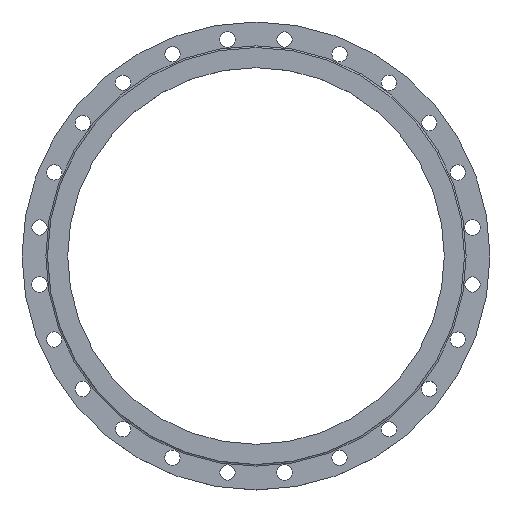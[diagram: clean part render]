
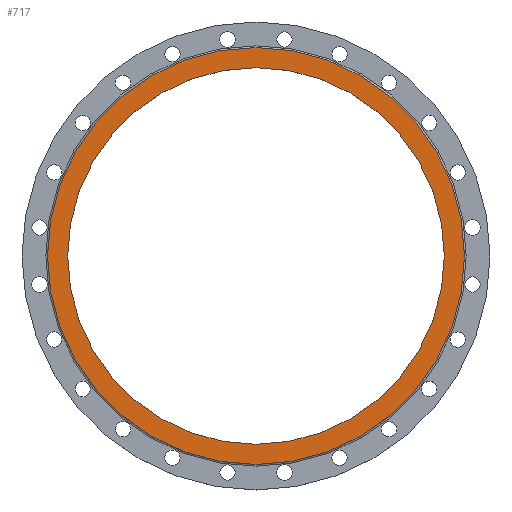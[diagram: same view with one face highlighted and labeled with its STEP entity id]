
A CAD part, top view. The second image highlights one B-rep face of the part: STEP entity #717.
In plain terms, the highlighted planar face has unit normal (0, 0, 1).
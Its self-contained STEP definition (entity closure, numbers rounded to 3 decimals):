
#123=FACE_BOUND('',#235,.T.);
#176=FACE_OUTER_BOUND('',#234,.T.);
#234=EDGE_LOOP('',(#627,#628));
#235=EDGE_LOOP('',(#629,#630));
#297=CIRCLE('',#775,367.5);
#298=CIRCLE('',#776,367.5);
#323=CIRCLE('',#826,332.);
#324=CIRCLE('',#827,332.);
#364=VERTEX_POINT('',#1135);
#365=VERTEX_POINT('',#1137);
#390=VERTEX_POINT('',#1237);
#391=VERTEX_POINT('',#1238);
#431=EDGE_CURVE('',#365,#364,#297,.T.);
#432=EDGE_CURVE('',#364,#365,#298,.T.);
#481=EDGE_CURVE('',#390,#391,#323,.T.);
#482=EDGE_CURVE('',#391,#390,#324,.T.);
#627=ORIENTED_EDGE('',*,*,#431,.T.);
#628=ORIENTED_EDGE('',*,*,#432,.T.);
#629=ORIENTED_EDGE('',*,*,#481,.T.);
#630=ORIENTED_EDGE('',*,*,#482,.T.);
#688=PLANE('',#825);
#717=ADVANCED_FACE('',(#176,#123),#688,.T.);
#775=AXIS2_PLACEMENT_3D('',#1138,#909,#910);
#776=AXIS2_PLACEMENT_3D('',#1139,#911,#912);
#825=AXIS2_PLACEMENT_3D('',#1236,#1033,#1034);
#826=AXIS2_PLACEMENT_3D('',#1239,#1035,#1036);
#827=AXIS2_PLACEMENT_3D('',#1240,#1037,#1038);
#909=DIRECTION('center_axis',(0.,0.,1.));
#910=DIRECTION('ref_axis',(-1.,0.,0.));
#911=DIRECTION('center_axis',(0.,0.,1.));
#912=DIRECTION('ref_axis',(-1.,0.,0.));
#1033=DIRECTION('center_axis',(0.,0.,1.));
#1034=DIRECTION('ref_axis',(1.,0.,0.));
#1035=DIRECTION('center_axis',(0.,0.,-1.));
#1036=DIRECTION('ref_axis',(1.,0.,0.));
#1037=DIRECTION('center_axis',(0.,0.,-1.));
#1038=DIRECTION('ref_axis',(1.,0.,0.));
#1135=CARTESIAN_POINT('',(367.5,0.,0.));
#1137=CARTESIAN_POINT('',(-367.5,0.,0.));
#1138=CARTESIAN_POINT('Origin',(0.,0.,0.));
#1139=CARTESIAN_POINT('Origin',(0.,0.,0.));
#1236=CARTESIAN_POINT('Origin',(-412.5,0.,0.));
#1237=CARTESIAN_POINT('',(-332.,0.,0.));
#1238=CARTESIAN_POINT('',(332.,0.,0.));
#1239=CARTESIAN_POINT('Origin',(0.,0.,0.));
#1240=CARTESIAN_POINT('Origin',(0.,0.,0.));
